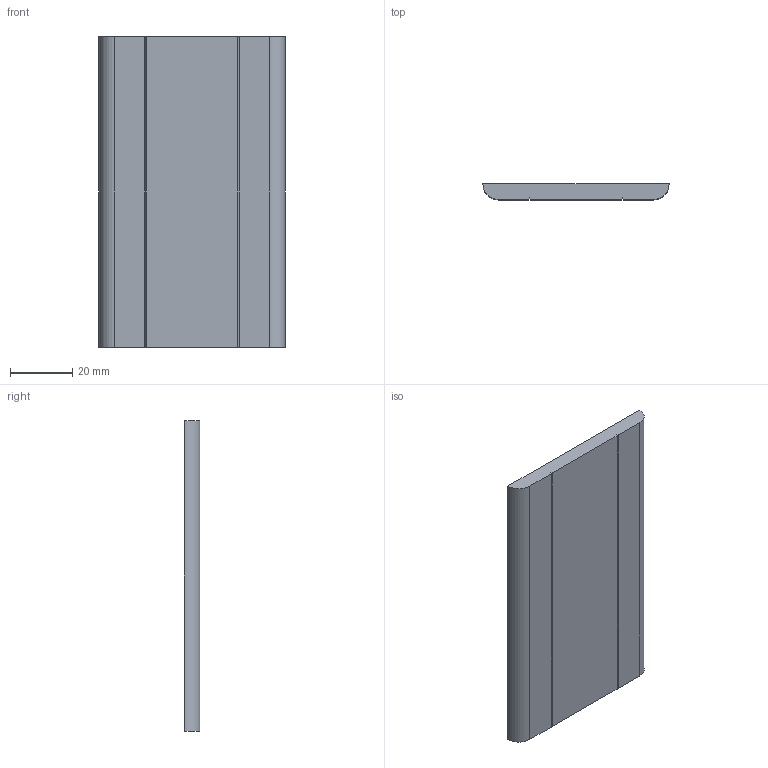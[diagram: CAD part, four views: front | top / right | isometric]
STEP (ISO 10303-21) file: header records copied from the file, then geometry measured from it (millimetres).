
FILE_DESCRIPTION (( 'STEP AP203' ), '1' );
FILE_NAME ('WFL0560P.STEP', '2024-02-19T12:09:27', ( '' ), ( '' ), 'SwSTEP 2.0', 'SolidWorks 2022', '' );
FILE_SCHEMA (( 'CONFIG_CONTROL_DESIGN' ));
Length unit declared in the file: millimetre
Products named in the file (1): WFL0560P
Bounding box: 60 x 5 x 100 mm (x, y, z)
Volume: 28898.1 mm3; surface area: 13264.2 mm2
Topology: 1 solids, 1 shells, 12 faces, 30 edges, 20 vertices
Faces by surface type: plane 10, cylinder 2
Entity records: 435 total; most frequent: CARTESIAN_POINT 63, ORIENTED_EDGE 60, DIRECTION 60, EDGE_CURVE 30, LINE 26, VECTOR 26, VERTEX_POINT 20, AXIS2_PLACEMENT_3D 17
